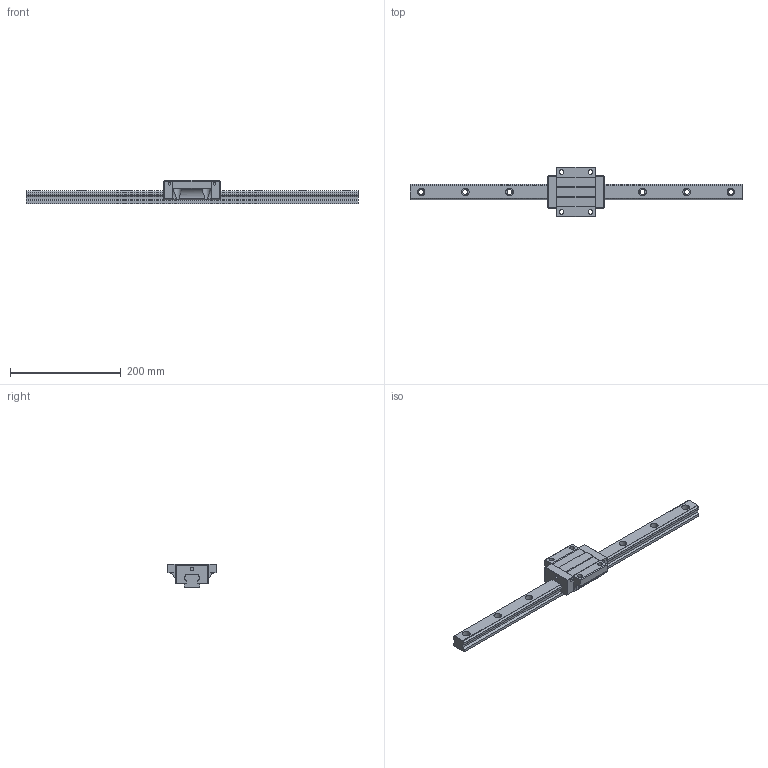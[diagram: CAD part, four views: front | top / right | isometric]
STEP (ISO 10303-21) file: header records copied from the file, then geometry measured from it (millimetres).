
FILE_DESCRIPTION (( 'STEP AP203' ), '1' );
FILE_NAME ('TRH30FN-SU.STEP', '2024-06-26T04:00:18', ( '' ), ( '' ), 'SwSTEP 2.0', 'SolidWorks 2022', '' );
FILE_SCHEMA (( 'CONFIG_CONTROL_DESIGN' ));
Length unit declared in the file: millimetre
Products named in the file (1): TRH30FN-SU
Bounding box: 600 x 90 x 42 mm (x, y, z)
Volume: 512989.2 mm3; surface area: 102870.5 mm2
Topology: 2 solids, 2 shells, 214 faces, 580 edges, 380 vertices
Faces by surface type: cylinder 116, plane 94, sphere 4
Entity records: 7543 total; most frequent: CARTESIAN_POINT 1907, DIRECTION 1184, ORIENTED_EDGE 1152, EDGE_CURVE 576, AXIS2_PLACEMENT_3D 421, VERTEX_POINT 380, LINE 342, VECTOR 342
